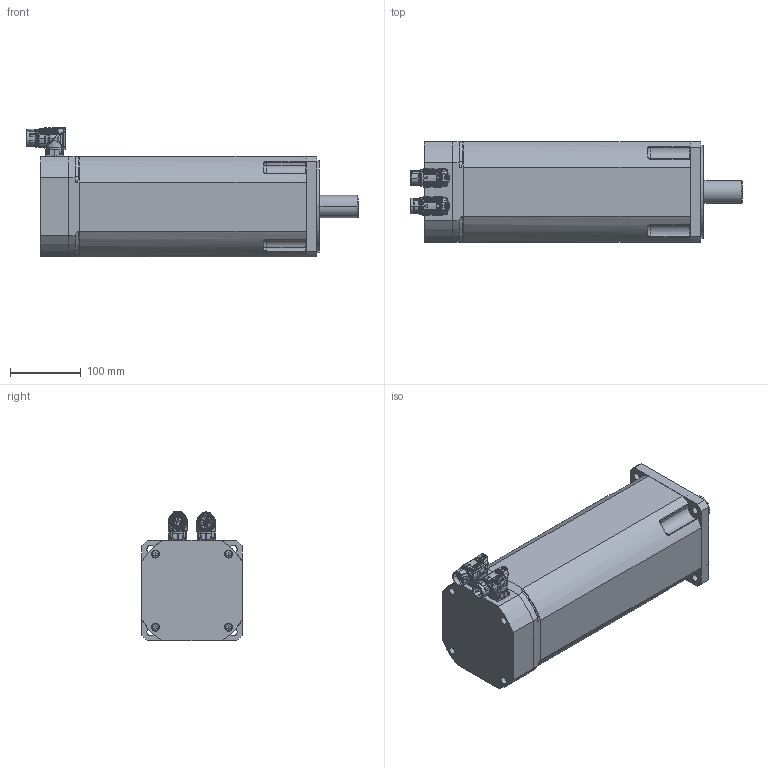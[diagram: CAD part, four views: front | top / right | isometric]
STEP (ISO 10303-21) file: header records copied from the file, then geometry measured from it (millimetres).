
FILE_DESCRIPTION(('CATIA V5 STEP Exchange'),'2;1');
FILE_NAME('C:\Documents and Settings\max\Documenti\sangallimotori\3d step\tg5\motore_DSM5_54_Freno.stp','2010-12-12T20:06:17+00:00',('none'),('none'),'CATIA Version 5 Release 10 (IN-8)','CATIA V5 STEP AP203',' none');
FILE_SCHEMA(('CONFIG_CONTROL_DESIGN'));
Assembly tree (27 placements, depth 0):
Bounding box: 468.81 x 142 x 183.43 mm (x, y, z)
Volume: 7144627.3 mm3; surface area: 391080.5 mm2
Topology: 23 solids, 28 shells, 4112 faces, 13934 edges, 9842 vertices
Faces by surface type: cylinder 1486, bspline 1334, plane 590, torus 360, cone 233, sphere 109
Entity records: 255963 total; most frequent: CARTESIAN_POINT 165446, ORIENTED_EDGE 25592, EDGE_CURVE 12853, VERTEX_POINT 9238, DIRECTION 8836, B_SPLINE_CURVE_WITH_KNOTS 7940, AXIS2_PLACEMENT_3D 4425, EDGE_LOOP 3856
